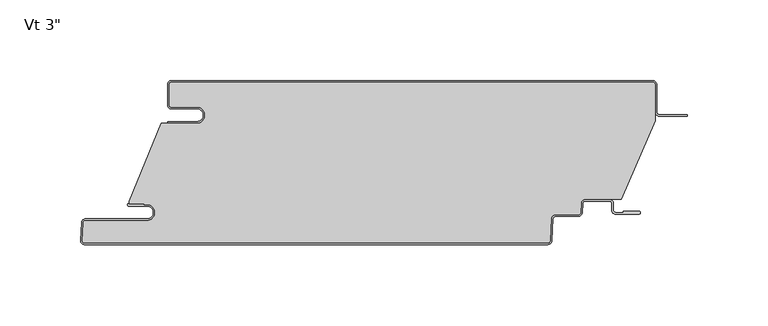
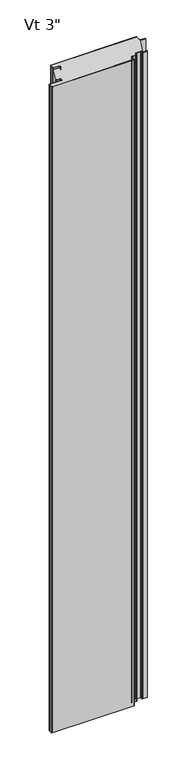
"""IFC4 building model written with IfcOpenShell, lengths in millimetres: plate geometry."""

import ifcopenshell
import ifcopenshell.guid

model = None  # the IFC model being written
_history = None  # IfcOwnerHistory: only IFC2X3 demands one
_inside = {}  # id of a spatial element -> (the spatial element, [elements in it])
_under = {}  # id of a project, library or spatial element -> (it, [spatial elements below it])
_declared = {}  # id of a project -> (the project, [libraries it declares])
_typed = {}  # id of a type object -> (the type object, [elements of that type])
_made_of = {}  # id of a material, layer set ... -> (it, [elements and type objects made of it])


def new_model(schema):
    """Start an empty IFC model of exactly this schema.

    Asked for "IFC4X3", IfcOpenShell would pick the latest addendum, in which some entities
    have other attributes; the version numbers below select the first issue.
    IFC2X3 requires an IfcOwnerHistory on every rooted entity: one is made here for all.
    """
    global model, _history
    if schema == "IFC4X3":
        model = ifcopenshell.file(schema_version=(4, 3, 0, 0))
    else:
        model = ifcopenshell.file(schema=schema)
    _inside.clear()
    _under.clear()
    _declared.clear()
    _typed.clear()
    _made_of.clear()
    _history = None
    if model.schema == "IFC2X3":
        org = make("IfcOrganization", Name="unknown")
        user = make(
            "IfcPersonAndOrganization",
            ThePerson=make("IfcPerson", FamilyName="unknown"),
            TheOrganization=org,
        )
        app = make(
            "IfcApplication",
            ApplicationDeveloper=org,
            Version="unknown",
            ApplicationFullName="unknown",
            ApplicationIdentifier="unknown",
        )
        _history = make(
            "IfcOwnerHistory",
            OwningUser=user,
            OwningApplication=app,
            ChangeAction="ADDED",
            CreationDate=0,
        )
    return model


def make(cls, **values):
    """One entity of the class cls with the attributes given. An attribute that is None is left unset."""
    return model.create_entity(
        cls, **{name: value for name, value in values.items() if value is not None}
    )


def rooted(cls, **values):
    """An entity with a GlobalId (a new one), such as an element, a storey or a relation."""
    return make(cls, GlobalId=ifcopenshell.guid.new(), OwnerHistory=_history, **values)


def si_unit(unit_type, name, prefix=None):
    """IfcSIUnit, for example si_unit("LENGTHUNIT", "METRE", prefix="MILLI")."""
    return make("IfcSIUnit", UnitType=unit_type, Prefix=prefix, Name=name)


def assignment(units):
    """IfcUnitAssignment: the units of a project."""
    return None if units is None else make("IfcUnitAssignment", Units=units)


def point(xyz):
    """IfcCartesianPoint."""
    return None if xyz is None else make("IfcCartesianPoint", Coordinates=xyz)


def direction(xyz):
    """IfcDirection."""
    return None if xyz is None else make("IfcDirection", DirectionRatios=xyz)


def frame(location, z_axis=None, x_axis=None):
    """IfcAxis2Placement3D, a coordinate frame: its origin and axes. An axis left out is left unset."""
    return make(
        "IfcAxis2Placement3D",
        Location=point(location),
        Axis=direction(z_axis),
        RefDirection=direction(x_axis),
    )


def frame_2d(location, x_axis=None):
    """IfcAxis2Placement2D, a coordinate frame in the plane: its origin and x axis."""
    return make(
        "IfcAxis2Placement2D", Location=point(location), RefDirection=direction(x_axis)
    )


def origin():
    """The frame at (0, 0, 0) with its axes left unset."""
    return frame((0.0, 0.0, 0.0))


def origin_with_axes():
    """The frame at (0, 0, 0) with the z axis (0, 0, 1) and the x axis (1, 0, 0) written out."""
    return frame((0.0, 0.0, 0.0), z_axis=(0.0, 0.0, 1.0), x_axis=(1.0, 0.0, 0.0))


def place(relative_to, where):
    """IfcLocalPlacement: puts the frame where relative to a parent placement (None: the world)."""
    return make(
        "IfcLocalPlacement", PlacementRelTo=relative_to, RelativePlacement=where
    )


def context(
    kind, dimensions, precision=None, world=None, true_north=None, identifier=None
):
    """IfcGeometricRepresentationContext, for example the 3D "Model" context."""
    return make(
        "IfcGeometricRepresentationContext",
        ContextIdentifier=identifier,
        ContextType=kind,
        CoordinateSpaceDimension=dimensions,
        Precision=precision,
        WorldCoordinateSystem=world,
        TrueNorth=true_north,
    )


def project(units=None, contexts=None):
    """IfcProject with its units and contexts."""
    return rooted(
        "IfcProject",
        Name="project",
        RepresentationContexts=contexts,
        UnitsInContext=assignment(units),
    )


def spatial(cls, under=None, at=None, **own):
    """A site, building, storey or space (cls), placed at a placement, below another one or the project."""
    s = rooted(cls, ObjectPlacement=at, **own)
    if under is not None:
        _under.setdefault(under.id(), (under, []))[1].append(s)
    return s


def polyline(points):
    """IfcPolyline through the points."""
    return make("IfcPolyline", Points=[point(p) for p in points])


def circle_curve(where, radius):
    """IfcCircle in the frame where."""
    return make("IfcCircle", Position=where, Radius=radius)


def ellipse_curve(where, semi_axis1, semi_axis2):
    """IfcEllipse in the frame where."""
    return make(
        "IfcEllipse", Position=where, SemiAxis1=semi_axis1, SemiAxis2=semi_axis2
    )


def trimmed(basis, trim1, trim2, sense, master):
    """IfcTrimmedCurve: the piece of a basis curve between two trims."""
    return make(
        "IfcTrimmedCurve",
        BasisCurve=basis,
        Trim1=trim1,
        Trim2=trim2,
        SenseAgreement=sense,
        MasterRepresentation=master,
    )


def segment(curve, same_sense, transition):
    """IfcCompositeCurveSegment."""
    return make(
        "IfcCompositeCurveSegment",
        Transition=transition,
        SameSense=same_sense,
        ParentCurve=curve,
    )


def composite_curve(segments, self_intersect=None):
    """IfcCompositeCurve: segments joined end to end."""
    return make("IfcCompositeCurve", Segments=segments, SelfIntersect=self_intersect)


def outline(outer, holes=None, kind="AREA"):
    """IfcArbitraryClosedProfileDef: a profile drawn as a closed curve; with holes, ...WithVoids."""
    if holes is None:
        return make("IfcArbitraryClosedProfileDef", ProfileType=kind, OuterCurve=outer)
    return make(
        "IfcArbitraryProfileDefWithVoids",
        ProfileType=kind,
        OuterCurve=outer,
        InnerCurves=holes,
    )


def extrude(swept, where, along, depth):
    """IfcExtrudedAreaSolid: the profile swept, set in the frame where, extruded along a direction by depth."""
    return make(
        "IfcExtrudedAreaSolid",
        SweptArea=swept,
        Position=where,
        ExtrudedDirection=direction(along),
        Depth=depth,
    )


def shape(context_of_items, identifier, shape_type, items):
    """IfcShapeRepresentation: the items that make up one representation, for example the "Body"."""
    return make(
        "IfcShapeRepresentation",
        ContextOfItems=context_of_items,
        RepresentationIdentifier=identifier,
        RepresentationType=shape_type,
        Items=items,
    )


def source(mapping_origin, context_of_items, identifier, shape_type, items):
    """IfcRepresentationMap: a shape defined once, which mapped items show again and again."""
    return make(
        "IfcRepresentationMap",
        MappingOrigin=mapping_origin,
        MappedRepresentation=shape(context_of_items, identifier, shape_type, items),
    )


def transform(
    local_origin,
    x_axis=None,
    y_axis=None,
    z_axis=None,
    scale=None,
    scale2=None,
    scale3=None,
    uniform=True,
):
    """IfcCartesianTransformationOperator3D, or its non-uniform kind. x_axis, y_axis, z_axis: its Axis1, 2, 3."""
    if uniform:
        return make(
            "IfcCartesianTransformationOperator3D",
            Axis1=direction(x_axis),
            Axis2=direction(y_axis),
            LocalOrigin=point(local_origin),
            Scale=scale,
            Axis3=direction(z_axis),
        )
    return make(
        "IfcCartesianTransformationOperator3DnonUniform",
        Axis1=direction(x_axis),
        Axis2=direction(y_axis),
        LocalOrigin=point(local_origin),
        Scale=scale,
        Axis3=direction(z_axis),
        Scale2=scale2,
        Scale3=scale3,
    )


def mapped(mapping_source, mapping_target):
    """IfcMappedItem: shows the shape of a source again, moved by a transform."""
    return make(
        "IfcMappedItem", MappingSource=mapping_source, MappingTarget=mapping_target
    )


def made_of(thing, what):
    """Note that an element or type object is made of a material, layer set ...; save() writes the relation."""
    if what is not None:
        _made_of.setdefault(what.id(), (what, []))[1].append(thing)
    return thing


def element(
    cls,
    number,
    at=None,
    inside=None,
    cuts=None,
    type_object=None,
    material=None,
    context=None,
    identifier="Body",
    shape_type=None,
    held_by="IfcProductDefinitionShape",
    body=None,
    shapes=None,
    **own,
):
    """One element of the class cls, such as IfcWall. Its Tag is "e" and its number.

    at: its placement. inside: the storey or other place that contains it. cuts: it is an
    opening in that element (IfcRelVoidsElement). A single representation is given by context,
    identifier, shape_type and body (its items); several are given by shapes. held_by: the class
    of the entity that holds the representations. save() writes the other relations.
    """
    e = rooted(cls, Tag="e%d" % number, ObjectPlacement=at, **own)
    if body is not None:
        shapes = [shape(context, identifier, shape_type, body)]
    if shapes is not None:
        e.Representation = make(held_by, Representations=shapes)
    if inside is not None:
        _inside.setdefault(inside.id(), (inside, []))[1].append(e)
    if cuts is not None:
        rooted(
            "IfcRelVoidsElement", RelatingBuildingElement=cuts, RelatedOpeningElement=e
        )
    if type_object is not None:
        _typed.setdefault(type_object.id(), (type_object, []))[1].append(e)
    return made_of(e, material)


def aggregate(whole, parts):
    """IfcRelAggregates: a whole, such as a stair, and the parts it consists of."""
    return rooted("IfcRelAggregates", RelatingObject=whole, RelatedObjects=parts)


def save(model, path):
    """Write the relations noted so far, then the file.

    IfcRelAggregates (storeys below a building ...), IfcRelContainedInSpatialStructure (elements
    in a storey), IfcRelDefinesByType, IfcRelAssociatesMaterial and IfcRelDeclares: one each for
    every whole, place, type object, material and project.
    """
    for whole, parts in _under.values():
        aggregate(whole, parts)
    for where, things in _inside.values():
        rooted(
            "IfcRelContainedInSpatialStructure",
            RelatedElements=things,
            RelatingStructure=where,
        )
    for kind, things in _typed.values():
        rooted("IfcRelDefinesByType", RelatedObjects=things, RelatingType=kind)
    for what, things in _made_of.values():
        rooted("IfcRelAssociatesMaterial", RelatedObjects=things, RelatingMaterial=what)
    for by, libraries in _declared.values():
        rooted("IfcRelDeclares", RelatingContext=by, RelatedDefinitions=libraries)
    model.write(path)


def plane_surface(at):
    """IfcPlane: the flat surface through the origin of the frame at, square to its z axis."""
    return make("IfcPlane", Position=at)


def cylinder_surface(at, radius):
    """IfcCylindricalSurface: all points at the distance radius from the z axis of the frame at."""
    return make("IfcCylindricalSurface", Position=at, Radius=radius)


def revolved_surface(curve, axis_point, axis_direction):
    """IfcSurfaceOfRevolution: the curve turned about the line through axis_point along axis_direction."""
    return make(
        "IfcSurfaceOfRevolution",
        SweptCurve=make("IfcArbitraryOpenProfileDef", ProfileType="CURVE", Curve=curve),
        AxisPosition=make("IfcAxis1Placement", Location=point(axis_point), Axis=direction(axis_direction)),
    )


def extruded_surface(curve, direction_of_extrusion, depth):
    """IfcSurfaceOfLinearExtrusion: the curve pushed along a direction by depth."""
    return make(
        "IfcSurfaceOfLinearExtrusion",
        SweptCurve=make("IfcArbitraryOpenProfileDef", ProfileType="CURVE", Curve=curve),
        ExtrudedDirection=direction(direction_of_extrusion),
        Depth=depth,
    )


def advanced_brep(points, edges, surfaces, faces):
    """IfcAdvancedBrep: a solid bounded by faces that lie on surfaces and meet in shared edges.

    An edge is (start, end): straight between two places in points (the first is 0);
    or (start, end, curve); or (start, end, curve, False) where it runs against its curve.
    A face is (place in surfaces, loops), or (place, loops, False) where it looks against
    its surface's normal. A loop lists edges by number (the first is 1), with a minus sign
    where the edge is run from its end to its start. The first loop is the outer one.
    """
    corners = [point(p) for p in points]
    vertices = [make("IfcVertexPoint", VertexGeometry=c) for c in corners]
    made = []
    for start, end, *more in edges:
        made.append(
            make(
                "IfcEdgeCurve",
                EdgeStart=vertices[start],
                EdgeEnd=vertices[end],
                EdgeGeometry=more[0] if more else make("IfcPolyline", Points=[corners[start], corners[end]]),
                SameSense=more[1] if len(more) > 1 else True,
            )
        )
    hull = []
    for where, loops, *sense in faces:
        bounds = []
        for j, loop in enumerate(loops):
            ring = [make("IfcOrientedEdge", EdgeElement=made[abs(k) - 1], Orientation=k > 0) for k in loop]
            bounds.append(
                make(
                    "IfcFaceOuterBound" if j == 0 else "IfcFaceBound",
                    Bound=make("IfcEdgeLoop", EdgeList=ring),
                    Orientation=True,
                )
            )
        hull.append(make("IfcAdvancedFace", Bounds=bounds, FaceSurface=surfaces[where], SameSense=sense[0] if sense else True))
    return make("IfcAdvancedBrep", Outer=make("IfcClosedShell", CfsFaces=hull))


def plate_9375496b(model_context):
    return source(origin(), model_context, "Body", "SolidModel", [
        extrude(outline(composite_curve([segment(polyline([(-133.35625, -16.4625), (-149.23125, -16.4625)]), True, "CONTINUOUS"), segment(trimmed(circle_curve(frame_2d((-149.23125, -15.08125)), 1.38125), [point((-149.23125, -16.4625))], [point((-150.6125, -15.08125))], False, "CARTESIAN"), True, "CONTINUOUS"), segment(polyline([(-150.6125, -15.08125), (-150.6125, -2.38125)]), True, "CONTINUOUS"), segment(trimmed(circle_curve(frame_2d((-149.23125, -2.38125)), 1.38125), [point((-150.6125, -2.38125))], [point((-149.23125, -1.0))], False, "CARTESIAN"), True, "CONTINUOUS"), segment(polyline([(-149.23125, -1.0), (149.21875, -1.0)]), True, "CONTINUOUS"), segment(trimmed(circle_curve(frame_2d((149.21875, -2.38125)), 1.38125), [point((149.21875, -1.0))], [point((150.6, -2.38125))], False, "CARTESIAN"), True, "CONTINUOUS"), segment(polyline([(150.6, -2.38125), (150.6, -24.9057308), (129.7830434, -73.6125), (107.3415783, -73.6125)]), True, "CONTINUOUS"), segment(trimmed(circle_curve(frame_2d((107.3415783, -76.2)), 2.5875), [point((107.3415783, -73.6125))], [point((104.7576244, -76.0645807))], True, "CARTESIAN"), True, "CONTINUOUS"), segment(polyline([(104.7576244, -76.0645807), (104.4555481, -81.828539)]), True, "CONTINUOUS"), segment(trimmed(circle_curve(frame_2d((103.0761911, -81.75625)), 1.38125), [point((104.4555481, -81.828539))], [point((103.0761911, -83.1375))], False, "CARTESIAN"), True, "CONTINUOUS"), segment(polyline([(103.0761911, -83.1375), (88.9198847, -83.1375)]), True, "CONTINUOUS"), segment(trimmed(circle_curve(frame_2d((88.9198847, -85.725)), 2.5875), [point((88.9198847, -83.1375))], [point((86.3359307, -85.5895807))], True, "CARTESIAN"), True, "CONTINUOUS"), segment(polyline([(86.3359307, -85.5895807), (85.6178677, -99.291039)]), True, "CONTINUOUS"), segment(trimmed(circle_curve(frame_2d((84.2385107, -99.21875)), 1.38125), [point((85.6178677, -99.291039))], [point((84.2385107, -100.6))], False, "CARTESIAN"), True, "CONTINUOUS"), segment(polyline([(84.2385107, -100.6), (-203.0924535, -100.6)]), True, "CONTINUOUS"), segment(trimmed(circle_curve(frame_2d((-203.0924535, -99.21875)), 1.38125), [point((-203.0924535, -100.6))], [point((-204.4718106, -99.146461))], False, "CARTESIAN"), True, "CONTINUOUS"), segment(polyline([(-204.4718106, -99.146461), (-203.8894291, -88.033961)]), True, "CONTINUOUS"), segment(trimmed(circle_curve(frame_2d((-202.5100721, -88.10625)), 1.38125), [point((-203.8894291, -88.033961))], [point((-202.5100721, -86.725))], False, "CARTESIAN"), True, "CONTINUOUS"), segment(polyline([(-202.5100721, -86.725), (-164.3267674, -86.725)]), True, "CONTINUOUS"), segment(trimmed(circle_curve(frame_2d((-164.3267674, -81.75625)), 4.96875), [point((-164.3267674, -86.725))], [point((-164.3267674, -76.7875))], True, "CARTESIAN"), True, "CONTINUOUS"), segment(polyline([(-164.3267674, -76.7875), (-165.9142674, -76.99375), (-165.9142674, -76.2), (-175.425, -76.2), (-175.425, -74.6157227), (-155.5385922, -26.4), (-133.35625, -26.4)]), True, "CONTINUOUS"), segment(trimmed(circle_curve(frame_2d((-133.35625, -21.43125)), 4.96875), [point((-133.35625, -26.4))], [point((-133.35625, -16.4625))], True, "CARTESIAN"), True, "CONTINUOUS")], self_intersect=False)), origin_with_axes(), (0.0, 0.0, 1.0), 2400.0),
        extrude(outline(composite_curve([segment(polyline([(-151.6125, -25.4), (-133.35625, -25.4)]), True, "CONTINUOUS"), segment(trimmed(circle_curve(frame_2d((-133.35625, -21.43125)), 3.96875), [point((-133.35625, -25.4))], [point((-133.35625, -17.4625))], True, "CARTESIAN"), True, "CONTINUOUS"), segment(polyline([(-133.35625, -17.4625), (-149.23125, -17.4625)]), True, "CONTINUOUS"), segment(trimmed(circle_curve(frame_2d((-149.23125, -15.08125)), 2.38125), [point((-149.23125, -17.4625))], [point((-151.6125, -15.08125))], False, "CARTESIAN"), True, "CONTINUOUS"), segment(polyline([(-151.6125, -15.08125), (-151.6125, -2.38125)]), True, "CONTINUOUS"), segment(trimmed(circle_curve(frame_2d((-149.23125, -2.38125)), 2.38125), [point((-151.6125, -2.38125))], [point((-149.23125, 0.0))], False, "CARTESIAN"), True, "CONTINUOUS"), segment(polyline([(-149.23125, 0.0), (149.21875, 0.0)]), True, "CONTINUOUS"), segment(trimmed(circle_curve(frame_2d((149.21875, -2.38125)), 2.38125), [point((149.21875, 0.0))], [point((151.6, -2.38125))], False, "CARTESIAN"), True, "CONTINUOUS"), segment(polyline([(151.6, -2.38125), (151.6, -19.446875)]), True, "CONTINUOUS"), segment(trimmed(circle_curve(frame_2d((153.1875, -19.446875)), 1.5875), [point((151.6, -19.446875))], [point((153.1875, -21.034375))], True, "CARTESIAN"), True, "CONTINUOUS"), segment(polyline([(153.1875, -21.034375), (170.65, -21.034375), (170.65, -22.034375), (153.1875, -22.034375)]), True, "CONTINUOUS"), segment(trimmed(circle_curve(frame_2d((153.1875, -19.446875)), 2.5875), [point((153.1875, -22.034375))], [point((150.6, -19.446875))], False, "CARTESIAN"), True, "CONTINUOUS"), segment(polyline([(150.6, -19.446875), (150.6, -2.38125)]), True, "CONTINUOUS"), segment(trimmed(circle_curve(frame_2d((149.21875, -2.38125)), 1.38125), [point((150.6, -2.38125))], [point((149.21875, -1.0))], True, "CARTESIAN"), True, "CONTINUOUS"), segment(polyline([(149.21875, -1.0), (-149.23125, -1.0)]), True, "CONTINUOUS"), segment(trimmed(circle_curve(frame_2d((-149.23125, -2.38125)), 1.38125), [point((-149.23125, -1.0))], [point((-150.6125, -2.38125))], True, "CARTESIAN"), True, "CONTINUOUS"), segment(polyline([(-150.6125, -2.38125), (-150.6125, -15.08125)]), True, "CONTINUOUS"), segment(trimmed(circle_curve(frame_2d((-149.23125, -15.08125)), 1.38125), [point((-150.6125, -15.08125))], [point((-149.23125, -16.4625))], True, "CARTESIAN"), True, "CONTINUOUS"), segment(polyline([(-149.23125, -16.4625), (-133.35625, -16.4625)]), True, "CONTINUOUS"), segment(trimmed(circle_curve(frame_2d((-133.35625, -21.43125)), 4.96875), [point((-133.35625, -16.4625))], [point((-133.35625, -26.4))], False, "CARTESIAN"), True, "CONTINUOUS"), segment(polyline([(-133.35625, -26.4), (-151.6125, -26.4), (-151.6125, -25.4)]), True, "CONTINUOUS")], self_intersect=False)), origin_with_axes(), (0.0, 0.0, 1.0), 2400.0),
        advanced_brep(
        [(-175.6377049, -76.2, 2400.0), (-175.6377049, -77.7875, 2400.0), (-164.3267674, -77.7875, 2400.0), (-164.3267674, -85.725, 2400.0), (-202.5100721, -85.725, 2400.0), (-204.8880586, -87.981625, 2400.0), (-205.4704401, -99.094125, 2400.0), (-203.0924535, -101.6, 2400.0), (84.2385107, -101.6, 2400.0), (86.6164973, -99.343375, 2400.0), (87.3345603, -85.6419167, 2400.0), (88.9198847, -84.1375, 2400.0), (103.0761911, -84.1375, 2400.0), (105.4541776, -81.880875, 2400.0), (105.7562539, -76.1169167, 2400.0), (107.3415783, -74.6125, 2400.0), (122.2169826, -74.6125, 2400.0), (123.8044826, -76.2, 2400.0), (123.8044826, -80.3671875, 2400.0), (126.1857326, -82.7484375, 2400.0), (140.6773532, -82.7484375, 2400.0), (140.6773532, -80.9546875, 2400.0), (130.9482326, -80.9546875, 2400.0), (130.9482326, -81.7484375, 2400.0), (126.1857326, -81.7484375, 2400.0), (124.8044826, -80.3671875, 2400.0), (124.8044826, -76.2, 2400.0), (122.2169826, -73.6125, 2400.0), (107.3415783, -73.6125, 2400.0), (104.7576244, -76.0645807, 2400.0), (104.4555481, -81.828539, 2400.0), (103.0761911, -83.1375, 2400.0), (88.9198847, -83.1375, 2400.0), (86.3359307, -85.5895807, 2400.0), (85.6178677, -99.291039, 2400.0), (84.2385107, -100.6, 2400.0), (-203.0924535, -100.6, 2400.0), (-204.4718106, -99.146461, 2400.0), (-203.8894291, -88.033961, 2400.0), (-202.5100721, -86.725, 2400.0), (-164.3267674, -86.725, 2400.0), (-164.3267674, -76.7875, 2400.0), (-165.9142674, -76.99375, 2400.0), (-165.9142674, -76.2, 2400.0), (-175.6377049, -76.2, 0.0), (-165.9142674, -76.2, 0.0), (-165.9142674, -76.99375, 0.0), (-164.3267674, -76.7875, 0.0), (-164.3267674, -86.725, 0.0), (-202.5100721, -86.725, 0.0), (-203.8894291, -88.033961, 0.0), (-204.4718106, -99.146461, 0.0), (-203.0924535, -100.6, 0.0), (84.2385107, -100.6, 0.0), (85.6178677, -99.291039, 0.0), (86.3359307, -85.5895807, 0.0), (88.9198847, -83.1375, 0.0), (103.0761911, -83.1375, 0.0), (104.4555481, -81.828539, 0.0), (104.7576244, -76.0645807, 0.0), (107.3415783, -73.6125, 0.0), (122.2169826, -73.6125, 0.0), (124.8044826, -76.2, 0.0), (124.8044826, -80.3671875, 0.0), (126.1857326, -81.7484375, 0.0), (130.9482326, -81.7484375, 0.0), (130.9482326, -80.9546875, 0.0), (140.6773532, -80.9546875, 0.0), (140.6773532, -82.7484375, 0.0), (126.1857326, -82.7484375, 0.0), (123.8044826, -80.3671875, 0.0), (123.8044826, -76.2, 0.0), (122.2169826, -74.6125, 0.0), (107.3415783, -74.6125, 0.0), (105.7562539, -76.1169167, 0.0), (105.4541776, -81.880875, 0.0), (103.0761911, -84.1375, 0.0), (88.9198847, -84.1375, 0.0), (87.3345603, -85.6419167, 0.0), (86.6164973, -99.343375, 0.0), (84.2385107, -101.6, 0.0), (-203.0924535, -101.6, 0.0), (-205.4704401, -99.094125, 0.0), (-204.8880586, -87.981625, 0.0), (-202.5100721, -85.725, 0.0), (-164.3267674, -85.725, 0.0), (-164.3267674, -77.7875, 0.0), (-175.6377049, -77.7875, 0.0)],
        [
            (0, 1, circle_curve(frame((-175.6377049, -76.99375, 2400.0), z_axis=(0.0, 0.0, 1.0), x_axis=(-1.0, 0.0, 0.0)), 0.79375)),
            (1, 2),
            (2, 3, circle_curve(frame((-164.3267674, -81.75625, 2400.0), z_axis=(0.0, 0.0, -1.0), x_axis=(-1.0, 0.0, 0.0)), 3.96875)),
            (3, 4),
            (4, 5, circle_curve(frame((-202.5100721, -88.10625, 2400.0), z_axis=(0.0, 0.0, 1.0), x_axis=(-1.0, 0.0, 0.0)), 2.38125)),
            (5, 6),
            (6, 7, circle_curve(frame((-203.0924535, -99.21875, 2400.0), z_axis=(0.0, 0.0, 1.0), x_axis=(-1.0, 0.0, 0.0)), 2.38125)),
            (7, 8),
            (8, 9, circle_curve(frame((84.2385107, -99.21875, 2400.0), z_axis=(0.0, 0.0, 1.0), x_axis=(-1.0, 0.0, 0.0)), 2.38125)),
            (9, 10),
            (10, 11, circle_curve(frame((88.9198847, -85.725, 2400.0), z_axis=(0.0, 0.0, -1.0), x_axis=(-1.0, 0.0, 0.0)), 1.5875)),
            (11, 12),
            (12, 13, circle_curve(frame((103.0761911, -81.75625, 2400.0), z_axis=(0.0, 0.0, 1.0), x_axis=(-1.0, 0.0, 0.0)), 2.38125)),
            (13, 14),
            (14, 15, circle_curve(frame((107.3415783, -76.2, 2400.0), z_axis=(0.0, 0.0, -1.0), x_axis=(-1.0, 0.0, 0.0)), 1.5875)),
            (15, 16),
            (16, 17, circle_curve(frame((122.2169826, -76.2, 2400.0), z_axis=(0.0, 0.0, -1.0), x_axis=(-1.0, 0.0, 0.0)), 1.5875)),
            (17, 18),
            (18, 19, circle_curve(frame((126.1857326, -80.3671875, 2400.0), z_axis=(0.0, 0.0, 1.0), x_axis=(-1.0, 0.0, 0.0)), 2.38125)),
            (19, 20),
            (20, 21, ellipse_curve(frame((140.6773532, -81.8515625, 2400.0), z_axis=(0.0, 0.0, 1.0), x_axis=(0.0, 1.0, 0.0)), 0.896875, 0.7852275)),
            (21, 22),
            (22, 23),
            (23, 24),
            (24, 25, circle_curve(frame((126.1857326, -80.3671875, 2400.0), z_axis=(0.0, 0.0, -1.0), x_axis=(-1.0, 0.0, 0.0)), 1.38125)),
            (25, 26),
            (26, 27, circle_curve(frame((122.2169826, -76.2, 2400.0), z_axis=(0.0, 0.0, 1.0), x_axis=(-1.0, 0.0, 0.0)), 2.5875)),
            (27, 28),
            (28, 29, circle_curve(frame((107.3415783, -76.2, 2400.0), z_axis=(0.0, 0.0, 1.0), x_axis=(-1.0, 0.0, 0.0)), 2.5875)),
            (29, 30),
            (30, 31, circle_curve(frame((103.0761911, -81.75625, 2400.0), z_axis=(0.0, 0.0, -1.0), x_axis=(-1.0, 0.0, 0.0)), 1.38125)),
            (31, 32),
            (32, 33, circle_curve(frame((88.9198847, -85.725, 2400.0), z_axis=(0.0, 0.0, 1.0), x_axis=(-1.0, 0.0, 0.0)), 2.5875)),
            (33, 34),
            (34, 35, circle_curve(frame((84.2385107, -99.21875, 2400.0), z_axis=(0.0, 0.0, -1.0), x_axis=(-1.0, 0.0, 0.0)), 1.38125)),
            (35, 36),
            (36, 37, circle_curve(frame((-203.0924535, -99.21875, 2400.0), z_axis=(0.0, 0.0, -1.0), x_axis=(-1.0, 0.0, 0.0)), 1.38125)),
            (37, 38),
            (38, 39, circle_curve(frame((-202.5100721, -88.10625, 2400.0), z_axis=(0.0, 0.0, -1.0), x_axis=(-1.0, 0.0, 0.0)), 1.38125)),
            (39, 40),
            (40, 41, circle_curve(frame((-164.3267674, -81.75625, 2400.0), z_axis=(0.0, 0.0, 1.0), x_axis=(-1.0, 0.0, 0.0)), 4.96875)),
            (41, 42),
            (42, 43),
            (43, 0),
            (44, 45),
            (45, 46),
            (46, 47),
            (47, 48, circle_curve(frame((-164.3267674, -81.75625, 0.0), z_axis=(0.0, 0.0, -1.0), x_axis=(-1.0, 0.0, 0.0)), 4.96875)),
            (48, 49),
            (49, 50, circle_curve(frame((-202.5100721, -88.10625, 0.0), z_axis=(0.0, 0.0, 1.0), x_axis=(-1.0, 0.0, 0.0)), 1.38125)),
            (50, 51),
            (51, 52, circle_curve(frame((-203.0924535, -99.21875, 0.0), z_axis=(0.0, 0.0, 1.0), x_axis=(-1.0, 0.0, 0.0)), 1.38125)),
            (52, 53),
            (53, 54, circle_curve(frame((84.2385107, -99.21875, 0.0), z_axis=(0.0, 0.0, 1.0), x_axis=(-1.0, 0.0, 0.0)), 1.38125)),
            (54, 55),
            (55, 56, circle_curve(frame((88.9198847, -85.725, 0.0), z_axis=(0.0, 0.0, -1.0), x_axis=(-1.0, 0.0, 0.0)), 2.5875)),
            (56, 57),
            (57, 58, circle_curve(frame((103.0761911, -81.75625, 0.0), z_axis=(0.0, 0.0, 1.0), x_axis=(-1.0, 0.0, 0.0)), 1.38125)),
            (58, 59),
            (59, 60, circle_curve(frame((107.3415783, -76.2, 0.0), z_axis=(0.0, 0.0, -1.0), x_axis=(-1.0, 0.0, 0.0)), 2.5875)),
            (60, 61),
            (61, 62, circle_curve(frame((122.2169826, -76.2, 0.0), z_axis=(0.0, 0.0, -1.0), x_axis=(-1.0, 0.0, 0.0)), 2.5875)),
            (62, 63),
            (63, 64, circle_curve(frame((126.1857326, -80.3671875, 0.0), z_axis=(0.0, 0.0, 1.0), x_axis=(-1.0, 0.0, 0.0)), 1.38125)),
            (64, 65),
            (65, 66),
            (66, 67),
            (67, 68, ellipse_curve(frame((140.6773532, -81.8515625, 0.0), z_axis=(0.0, 0.0, -1.0), x_axis=(0.0, 1.0, 0.0)), 0.896875, 0.7852275)),
            (68, 69),
            (69, 70, circle_curve(frame((126.1857326, -80.3671875, 0.0), z_axis=(0.0, 0.0, -1.0), x_axis=(-1.0, 0.0, 0.0)), 2.38125)),
            (70, 71),
            (71, 72, circle_curve(frame((122.2169826, -76.2, 0.0), z_axis=(0.0, 0.0, 1.0), x_axis=(-1.0, 0.0, 0.0)), 1.5875)),
            (72, 73),
            (73, 74, circle_curve(frame((107.3415783, -76.2, 0.0), z_axis=(0.0, 0.0, 1.0), x_axis=(-1.0, 0.0, 0.0)), 1.5875)),
            (74, 75),
            (75, 76, circle_curve(frame((103.0761911, -81.75625, 0.0), z_axis=(0.0, 0.0, -1.0), x_axis=(-1.0, 0.0, 0.0)), 2.38125)),
            (76, 77),
            (77, 78, circle_curve(frame((88.9198847, -85.725, 0.0), z_axis=(0.0, 0.0, 1.0), x_axis=(-1.0, 0.0, 0.0)), 1.5875)),
            (78, 79),
            (79, 80, circle_curve(frame((84.2385107, -99.21875, 0.0), z_axis=(0.0, 0.0, -1.0), x_axis=(-1.0, 0.0, 0.0)), 2.38125)),
            (80, 81),
            (81, 82, circle_curve(frame((-203.0924535, -99.21875, 0.0), z_axis=(0.0, 0.0, -1.0), x_axis=(-1.0, 0.0, 0.0)), 2.38125)),
            (82, 83),
            (83, 84, circle_curve(frame((-202.5100721, -88.10625, 0.0), z_axis=(0.0, 0.0, -1.0), x_axis=(-1.0, 0.0, 0.0)), 2.38125)),
            (84, 85),
            (85, 86, circle_curve(frame((-164.3267674, -81.75625, 0.0), z_axis=(0.0, 0.0, 1.0), x_axis=(-1.0, 0.0, 0.0)), 3.96875)),
            (86, 87),
            (87, 44, circle_curve(frame((-175.6377049, -76.99375, 0.0), z_axis=(0.0, 0.0, -1.0), x_axis=(-1.0, 0.0, 0.0)), 0.79375)),
            (43, 45),
            (44, 0),
            (87, 1),
            (86, 2),
            (85, 3),
            (84, 4),
            (83, 5),
            (82, 6),
            (81, 7),
            (80, 8),
            (79, 9),
            (78, 10),
            (77, 11),
            (76, 12),
            (75, 13),
            (74, 14),
            (73, 15),
            (38, 50),
            (49, 39),
            (37, 51),
            (36, 52),
            (35, 53),
            (34, 54),
            (33, 55),
            (32, 56),
            (31, 57),
            (30, 58),
            (29, 59),
            (28, 60),
            (23, 65),
            (64, 24),
            (63, 25),
            (62, 26),
            (72, 16),
            (71, 17),
            (70, 18),
            (69, 19),
            (68, 20),
            (27, 61),
            (48, 40),
            (47, 41),
            (42, 46),
            (22, 66),
            (21, 67),
        ],
        [
            plane_surface(frame((-0.00625, -101.6, 2400.0), z_axis=(0.0, 0.0, 1.0), x_axis=(0.0, -1.0, 0.0))),
            plane_surface(frame((-0.00625, -101.6, 0.0), z_axis=(0.0, 0.0, -1.0), x_axis=(0.0, -1.0, 0.0))),
            plane_surface(frame((-175.6377049, -76.2, 2400.0), z_axis=(0.0, 1.0, 0.0), x_axis=(0.0, 0.0, -1.0))),
            cylinder_surface(frame((-175.6377049, -76.99375, 2400.0), z_axis=(0.0, 0.0, 1.0), x_axis=(-1.0, 0.0, 0.0)), 0.79375),
            plane_surface(frame((-164.3267674, -77.7875, 2400.0), z_axis=(0.0, -1.0, 0.0), x_axis=(0.0, 0.0, -1.0))),
            revolved_surface(polyline([(-168.2955174, -81.75625, 0.0), (-168.2955174, -81.75625, 2400.0)]), (-164.3267674, -81.75625, 2400.0), (0.0, 0.0, -1.0)),
            plane_surface(frame((-202.5100721, -85.725, 2400.0), z_axis=(0.0, 1.0, 0.0), x_axis=(0.0, 0.0, -1.0))),
            cylinder_surface(frame((-202.5100721, -88.10625, 2400.0), z_axis=(0.0, 0.0, 1.0), x_axis=(-1.0, 0.0, 0.0)), 2.38125),
            plane_surface(frame((-205.4704401, -99.094125, 2400.0), z_axis=(-0.9986295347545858, 0.052335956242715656, 0.0), x_axis=(0.0, 0.0, -1.0))),
            cylinder_surface(frame((-203.0924535, -99.21875, 2400.0), z_axis=(0.0, 0.0, 1.0), x_axis=(-1.0, 0.0, 0.0)), 2.38125),
            plane_surface(frame((84.2385107, -101.6, 2400.0), z_axis=(0.0, -1.0, 0.0), x_axis=(0.0, 0.0, -1.0))),
            cylinder_surface(frame((84.2385107, -99.21875, 2400.0), z_axis=(0.0, 0.0, 1.0), x_axis=(-1.0, 0.0, 0.0)), 2.38125),
            plane_surface(frame((87.3345603, -85.6419167, 2400.0), z_axis=(0.9986295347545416, -0.05233595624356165, 0.0), x_axis=(0.0, 0.0, -1.0))),
            revolved_surface(polyline([(87.33238469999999, -85.725, 0.0), (87.33238469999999, -85.725, 2400.0)]), (88.9198847, -85.725, 2400.0), (0.0, 0.0, -1.0)),
            plane_surface(frame((103.0761911, -84.1375, 2400.0), z_axis=(0.0, -1.0, 0.0), x_axis=(0.0, 0.0, -1.0))),
            cylinder_surface(frame((103.0761911, -81.75625, 2400.0), z_axis=(0.0, 0.0, 1.0), x_axis=(-1.0, 0.0, 0.0)), 2.38125),
            plane_surface(frame((105.7562539, -76.1169167, 2400.0), z_axis=(0.9986295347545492, -0.052335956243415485, 0.0), x_axis=(0.0, 0.0, -1.0))),
            revolved_surface(polyline([(105.75407829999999, -76.2, 0.0), (105.75407829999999, -76.2, 2400.0)]), (107.3415783, -76.2, 2400.0), (0.0, 0.0, -1.0)),
            revolved_surface(polyline([(-203.8913221, -88.10625, 0.0), (-203.8913221, -88.10625, 2400.0)]), (-202.5100721, -88.10625, 2400.0), (0.0, 0.0, -1.0)),
            plane_surface(frame((-203.8894291, -88.033961, 2400.0), z_axis=(0.9986295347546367, -0.05233595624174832, 0.0), x_axis=(0.0, 0.0, -1.0))),
            revolved_surface(polyline([(-204.4737035, -99.21875, 0.0), (-204.4737035, -99.21875, 2400.0)]), (-203.0924535, -99.21875, 2400.0), (0.0, 0.0, -1.0)),
            plane_surface(frame((-203.0924535, -100.6, 2400.0), z_axis=(0.0, 1.0, 0.0), x_axis=(0.0, 0.0, -1.0))),
            revolved_surface(polyline([(82.85726070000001, -99.21875, 0.0), (82.85726070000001, -99.21875, 2400.0)]), (84.2385107, -99.21875, 2400.0), (0.0, 0.0, -1.0)),
            plane_surface(frame((85.6178677, -99.291039, 2400.0), z_axis=(-0.9986295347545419, 0.05233595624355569, 0.0), x_axis=(0.0, 0.0, -1.0))),
            cylinder_surface(frame((88.9198847, -85.725, 2400.0), z_axis=(0.0, 0.0, 1.0), x_axis=(-1.0, 0.0, 0.0)), 2.5875),
            plane_surface(frame((88.9198847, -83.1375, 2400.0), z_axis=(0.0, 1.0, 0.0), x_axis=(0.0, 0.0, -1.0))),
            revolved_surface(polyline([(101.69494110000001, -81.75625, 0.0), (101.69494110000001, -81.75625, 2400.0)]), (103.0761911, -81.75625, 2400.0), (0.0, 0.0, -1.0)),
            plane_surface(frame((104.4555481, -81.828539, 2400.0), z_axis=(-0.9986295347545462, 0.05233595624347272, 0.0), x_axis=(0.0, 0.0, -1.0))),
            cylinder_surface(frame((107.3415783, -76.2, 2400.0), z_axis=(0.0, 0.0, 1.0), x_axis=(-1.0, 0.0, 0.0)), 2.5875),
            plane_surface(frame((126.1857326, -81.7484375, 2400.0), z_axis=(0.0, 1.0, 0.0), x_axis=(0.0, 0.0, -1.0))),
            revolved_surface(polyline([(124.8044826, -80.3671875, 0.0), (124.8044826, -80.3671875, 2400.0)]), (126.1857326, -80.3671875, 2400.0), (0.0, 0.0, -1.0)),
            plane_surface(frame((124.8044826, -76.2, 2400.0), z_axis=(1.0, 0.0, 0.0), x_axis=(0.0, 0.0, -1.0))),
            plane_surface(frame((122.2169826, -74.6125, 2400.0), z_axis=(0.0, -1.0, 0.0), x_axis=(0.0, 0.0, -1.0))),
            revolved_surface(polyline([(120.62948259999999, -76.2, 0.0), (120.62948259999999, -76.2, 2400.0)]), (122.2169826, -76.2, 2400.0), (0.0, 0.0, -1.0)),
            plane_surface(frame((123.8044826, -80.3671875, 2400.0), z_axis=(-1.0, 0.0, 0.0), x_axis=(0.0, 0.0, -1.0))),
            cylinder_surface(frame((126.1857326, -80.3671875, 2400.0), z_axis=(0.0, 0.0, 1.0), x_axis=(-1.0, 0.0, 0.0)), 2.38125),
            plane_surface(frame((140.6773532, -82.7484375, 2400.0), z_axis=(0.0, -1.0, 0.0), x_axis=(0.0, 0.0, -1.0))),
            plane_surface(frame((107.3415783, -73.6125, 2400.0), z_axis=(0.0, 1.0, 0.0), x_axis=(0.0, 0.0, -1.0))),
            cylinder_surface(frame((122.2169826, -76.2, 2400.0), z_axis=(0.0, 0.0, 1.0), x_axis=(-1.0, 0.0, 0.0)), 2.5875),
            plane_surface(frame((-164.3267674, -86.725, 2400.0), z_axis=(0.0, -1.0, 0.0), x_axis=(0.0, 0.0, -1.0))),
            cylinder_surface(frame((-164.3267674, -81.75625, 2400.0), z_axis=(0.0, 0.0, 1.0), x_axis=(-1.0, 0.0, 0.0)), 4.96875),
            plane_surface(frame((-165.9142674, -76.2, 2400.0), z_axis=(1.0, 0.0, 0.0), x_axis=(0.0, 0.0, -1.0))),
            plane_surface(frame((-165.9142674, -76.99375, 2400.0), z_axis=(-0.12883844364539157, 0.9916655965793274, 0.0), x_axis=(0.0, 0.0, -1.0))),
            plane_surface(frame((130.9482326, -81.7484375, 2400.0), z_axis=(-1.0, 0.0, 0.0), x_axis=(0.0, 0.0, -1.0))),
            plane_surface(frame((130.9482326, -80.9546875, 2400.0), z_axis=(0.0, 1.0, 0.0), x_axis=(0.0, 0.0, -1.0))),
            extruded_surface(trimmed(ellipse_curve(frame((140.6773532, -81.8515625, 2400.0), z_axis=(0.0, 0.0, -1.0), x_axis=(0.0, 1.0, 0.0)), 0.896875, 0.7852275), [point((140.6773532, -80.9546875, 2400.0))], [point((140.6773532, -82.7484375, 2400.0))], True, "CARTESIAN"), (0.0, 0.0, -2400.0), 2400.0),
        ],
        [
            (0, [[1, 2, 3, 4, 5, 6, 7, 8, 9, 10, 11, 12, 13, 14, 15, 16, 17, 18, 19, 20, 21, 22, 23, 24, 25, 26, 27, 28, 29, 30, 31, 32, 33, 34, 35, 36, 37, 38, 39, 40, 41, 42, 43, 44]]),
            (1, [[45, 46, 47, 48, 49, 50, 51, 52, 53, 54, 55, 56, 57, 58, 59, 60, 61, 62, 63, 64, 65, 66, 67, 68, 69, 70, 71, 72, 73, 74, 75, 76, 77, 78, 79, 80, 81, 82, 83, 84, 85, 86, 87, 88]]),
            (2, [[89, -45, 90, -44]]),
            (3, [[-90, -88, 91, -1]]),
            (4, [[-91, -87, 92, -2]]),
            (5, [[-92, -86, 93, -3]]),
            (6, [[-93, -85, 94, -4]]),
            (7, [[-94, -84, 95, -5]]),
            (8, [[-95, -83, 96, -6]]),
            (9, [[-96, -82, 97, -7]]),
            (10, [[-97, -81, 98, -8]]),
            (11, [[-98, -80, 99, -9]]),
            (12, [[-99, -79, 100, -10]]),
            (13, [[-100, -78, 101, -11]]),
            (14, [[-101, -77, 102, -12]]),
            (15, [[-102, -76, 103, -13]]),
            (16, [[-103, -75, 104, -14]]),
            (17, [[-104, -74, 105, -15]]),
            (18, [[106, -50, 107, -39]]),
            (19, [[108, -51, -106, -38]]),
            (20, [[109, -52, -108, -37]]),
            (21, [[110, -53, -109, -36]]),
            (22, [[111, -54, -110, -35]]),
            (23, [[112, -55, -111, -34]]),
            (24, [[113, -56, -112, -33]]),
            (25, [[114, -57, -113, -32]]),
            (26, [[115, -58, -114, -31]]),
            (27, [[116, -59, -115, -30]]),
            (28, [[117, -60, -116, -29]]),
            (29, [[118, -65, 119, -24]]),
            (30, [[-119, -64, 120, -25]]),
            (31, [[-120, -63, 121, -26]]),
            (32, [[-105, -73, 122, -16]]),
            (33, [[-122, -72, 123, -17]]),
            (34, [[-123, -71, 124, -18]]),
            (35, [[-124, -70, 125, -19]]),
            (36, [[-125, -69, 126, -20]]),
            (37, [[127, -61, -117, -28]]),
            (38, [[-121, -62, -127, -27]]),
            (39, [[-107, -49, 128, -40]]),
            (40, [[-128, -48, 129, -41]]),
            (41, [[130, -46, -89, -43]]),
            (42, [[-129, -47, -130, -42]]),
            (43, [[131, -66, -118, -23]]),
            (44, [[132, -67, -131, -22]]),
            (45, [[-126, -68, -132, -21]]),
        ],
    ),
    ])


if __name__ == "__main__":
    model = new_model("IFC4")
    model_context = context("Model", 3, world=origin())
    ifc_project = project(units=[si_unit("LENGTHUNIT", "METRE", prefix="MILLI")], contexts=[model_context])
    site = spatial("IfcSite", under=ifc_project)
    building = spatial("IfcBuilding", under=site)
    placement = place(None, origin())
    plate_shape = plate_9375496b(model_context)
    element("IfcPlate", 1, ObjectType="KIP-12-DWHR-R19-CP-Vt-F : Vt 3\"", at=placement, inside=building, context=model_context, shape_type="MappedRepresentation", body=[
        mapped(plate_shape, transform((0.0, 0.0, 0.0), x_axis=(1.0, 0.0, 0.0), y_axis=(0.0, 1.0, 0.0), z_axis=(0.0, 0.0, 1.0))),
    ])
    save(model, "model.ifc")
